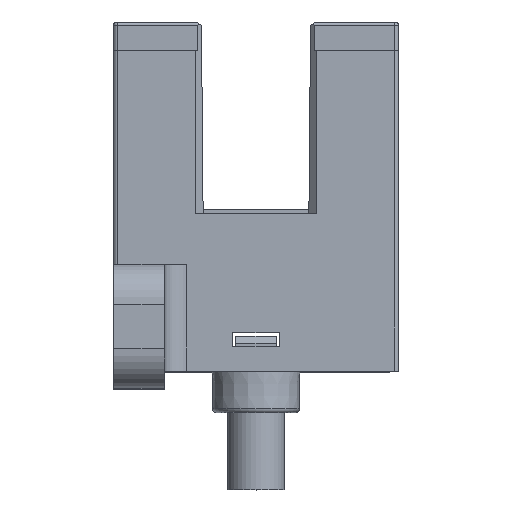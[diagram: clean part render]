
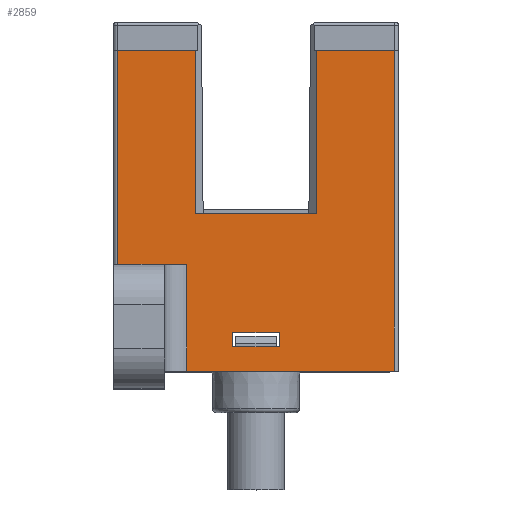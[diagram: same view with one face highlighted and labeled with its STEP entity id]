
A CAD part, top view. The second image highlights one B-rep face of the part: STEP entity #2859.
In plain terms, the highlighted planar face has unit normal (0, 0, 1).
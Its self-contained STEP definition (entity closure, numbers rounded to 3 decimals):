
#500=DIRECTION('',(0.,1.,0.));
#501=VECTOR('',#500,8.03);
#502=CARTESIAN_POINT('',(-2.95,0.025,2.95));
#503=LINE('',#502,#501);
#508=DIRECTION('',(-1.,0.,0.));
#509=VECTOR('',#508,5.9);
#510=CARTESIAN_POINT('',(2.95,0.025,2.95));
#511=LINE('',#510,#509);
#528=DIRECTION('',(0.,1.,0.));
#529=VECTOR('',#528,0.7);
#530=CARTESIAN_POINT('',(1.15,-6.495,2.95));
#531=LINE('',#530,#529);
#532=DIRECTION('',(-1.,0.,0.));
#533=VECTOR('',#532,2.3);
#534=CARTESIAN_POINT('',(1.15,-5.795,2.95));
#535=LINE('',#534,#533);
#536=DIRECTION('',(0.,-1.,0.));
#537=VECTOR('',#536,5.225);
#538=CARTESIAN_POINT('',(-3.4,-2.47,2.95));
#539=LINE('',#538,#537);
#540=DIRECTION('',(0.,1.,0.));
#541=VECTOR('',#540,8.03);
#542=CARTESIAN_POINT('',(2.95,0.025,2.95));
#543=LINE('',#542,#541);
#544=DIRECTION('',(1.,0.,0.));
#545=VECTOR('',#544,3.85);
#546=CARTESIAN_POINT('',(2.95,8.055,2.95));
#547=LINE('',#546,#545);
#548=DIRECTION('',(-1.,0.,0.));
#549=VECTOR('',#548,10.2);
#550=CARTESIAN_POINT('',(6.8,-7.695,2.95));
#551=LINE('',#550,#549);
#564=DIRECTION('',(-1.,0.,0.));
#565=VECTOR('',#564,2.3);
#566=CARTESIAN_POINT('',(1.15,-6.495,2.95));
#567=LINE('',#566,#565);
#572=DIRECTION('',(0.,1.,0.));
#573=VECTOR('',#572,0.7);
#574=CARTESIAN_POINT('',(-1.15,-6.495,2.95));
#575=LINE('',#574,#573);
#947=DIRECTION('',(0.,1.,0.));
#948=VECTOR('',#947,15.75);
#949=CARTESIAN_POINT('',(6.8,-7.695,2.95));
#950=LINE('',#949,#948);
#1353=DIRECTION('',(1.,0.,0.));
#1354=VECTOR('',#1353,3.4);
#1355=CARTESIAN_POINT('',(-6.8,-2.47,
2.95));
#1356=LINE('',#1355,#1354);
#1370=DIRECTION('',(0.,-1.,0.));
#1371=VECTOR('',#1370,10.525);
#1372=CARTESIAN_POINT('',(-6.8,8.055,2.95));
#1373=LINE('',#1372,#1371);
#1392=DIRECTION('',(-1.,0.,0.));
#1393=VECTOR('',#1392,3.85);
#1394=CARTESIAN_POINT('',(-2.95,8.055,2.95));
#1395=LINE('',#1394,#1393);
#1762=CARTESIAN_POINT('',(1.15,-6.495,2.95));
#1763=CARTESIAN_POINT('',(1.15,-5.795,2.95));
#1764=VERTEX_POINT('',#1762);
#1765=VERTEX_POINT('',#1763);
#1766=CARTESIAN_POINT('',(-6.8,8.055,2.95));
#1767=CARTESIAN_POINT('',(-6.8,-2.47,
2.95));
#1768=VERTEX_POINT('',#1766);
#1769=VERTEX_POINT('',#1767);
#1770=CARTESIAN_POINT('',(-2.95,8.055,2.95));
#1771=VERTEX_POINT('',#1770);
#1772=CARTESIAN_POINT('',(-2.95,0.025,
2.95));
#1773=VERTEX_POINT('',#1772);
#1774=CARTESIAN_POINT('',(2.95,0.025,2.95));
#1775=VERTEX_POINT('',#1774);
#1776=CARTESIAN_POINT('',(2.95,8.055,2.95));
#1777=VERTEX_POINT('',#1776);
#1778=CARTESIAN_POINT('',(6.8,8.055,2.95));
#1779=VERTEX_POINT('',#1778);
#1780=CARTESIAN_POINT('',(6.8,-7.695,2.95));
#1781=VERTEX_POINT('',#1780);
#1782=CARTESIAN_POINT('',(-1.15,-5.795,
2.95));
#1783=VERTEX_POINT('',#1782);
#1784=CARTESIAN_POINT('',(-1.15,-6.495,
2.95));
#1785=VERTEX_POINT('',#1784);
#2168=CARTESIAN_POINT('',(-3.4,-2.47,
2.95));
#2169=CARTESIAN_POINT('',(-3.4,-7.695,
2.95));
#2170=VERTEX_POINT('',#2168);
#2171=VERTEX_POINT('',#2169);
#2824=CARTESIAN_POINT('',(0.,0.,2.95));
#2825=DIRECTION('',(0.,0.,1.));
#2826=DIRECTION('',(1.,0.,0.));
#2827=AXIS2_PLACEMENT_3D('',#2824,#2825,#2826);
#2828=PLANE('',#2827);
#2830=ORIENTED_EDGE('',*,*,#2829,.F.);
#2832=ORIENTED_EDGE('',*,*,#2831,.F.);
#2834=ORIENTED_EDGE('',*,*,#2833,.F.);
#2836=ORIENTED_EDGE('',*,*,#2835,.F.);
#2837=ORIENTED_EDGE('',*,*,#2797,.F.);
#2838=ORIENTED_EDGE('',*,*,#2811,.F.);
#2840=ORIENTED_EDGE('',*,*,#2839,.T.);
#2842=ORIENTED_EDGE('',*,*,#2841,.T.);
#2844=ORIENTED_EDGE('',*,*,#2843,.F.);
#2846=ORIENTED_EDGE('',*,*,#2845,.T.);
#2847=EDGE_LOOP('',(#2830,#2832,#2834,#2836,#2837,#2838,#2840,#2842,#2844,
#2846));
#2848=FACE_OUTER_BOUND('',#2847,.F.);
#2850=ORIENTED_EDGE('',*,*,#2849,.T.);
#2852=ORIENTED_EDGE('',*,*,#2851,.T.);
#2854=ORIENTED_EDGE('',*,*,#2853,.F.);
#2856=ORIENTED_EDGE('',*,*,#2855,.F.);
#2857=EDGE_LOOP('',(#2850,#2852,#2854,#2856));
#2858=FACE_BOUND('',#2857,.F.);
#2859=ADVANCED_FACE('',(#2848,#2858),#2828,.T.);
#2797=EDGE_CURVE('',#1773,#1771,#503,.T.);
#2811=EDGE_CURVE('',#1775,#1773,#511,.T.);
#2829=EDGE_CURVE('',#2170,#2171,#539,.T.);
#2831=EDGE_CURVE('',#1769,#2170,#1356,.T.);
#2833=EDGE_CURVE('',#1768,#1769,#1373,.T.);
#2835=EDGE_CURVE('',#1771,#1768,#1395,.T.);
#2839=EDGE_CURVE('',#1775,#1777,#543,.T.);
#2841=EDGE_CURVE('',#1777,#1779,#547,.T.);
#2843=EDGE_CURVE('',#1781,#1779,#950,.T.);
#2845=EDGE_CURVE('',#1781,#2171,#551,.T.);
#2849=EDGE_CURVE('',#1764,#1765,#531,.T.);
#2851=EDGE_CURVE('',#1765,#1783,#535,.T.);
#2853=EDGE_CURVE('',#1785,#1783,#575,.T.);
#2855=EDGE_CURVE('',#1764,#1785,#567,.T.);
